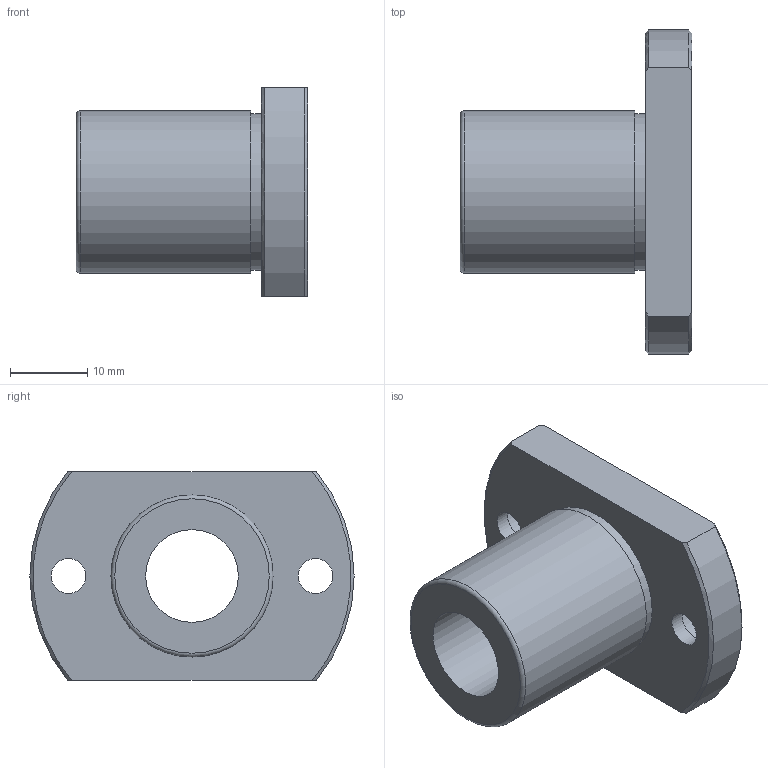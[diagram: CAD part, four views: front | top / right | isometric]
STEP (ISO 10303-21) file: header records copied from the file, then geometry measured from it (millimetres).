
FILE_DESCRIPTION(('STEP AP203'),'1');
FILE_NAME('//192.168.1.1/share/s-4 技術開発/s-4-4_CAD/s-4-4-3_見直し済み/002 修正済み/NFEO-V(済)/NFEO-V_TOP/NFEO-12VUU.step','2022-03-08T01:30:33',(' '),(' '),'Spatial InterOp 3D',' ',' ');
FILE_SCHEMA(('CONFIG_CONTROL_DESIGN'));
Length unit declared in the file: millimetre
Products named in the file (1): 1
Bounding box: 30 x 42 x 27 mm (x, y, z)
Volume: 10753.2 mm3; surface area: 5509.5 mm2
Topology: 1 solids, 1 shells, 22 faces, 49 edges, 33 vertices
Faces by surface type: cylinder 9, plane 8, cone 4, torus 1
Full cylindrical faces by diameter (mm): 4.5 x2, 7.5 x2, 12 x1, 20.3 x1, 21 x1
Entity records: 630 total; most frequent: CARTESIAN_POINT 117, DIRECTION 100, ORIENTED_EDGE 78, AXIS2_PLACEMENT_3D 46, EDGE_LOOP 40, EDGE_CURVE 39, VERTEX_POINT 31, FACE_OUTER_BOUND 30
